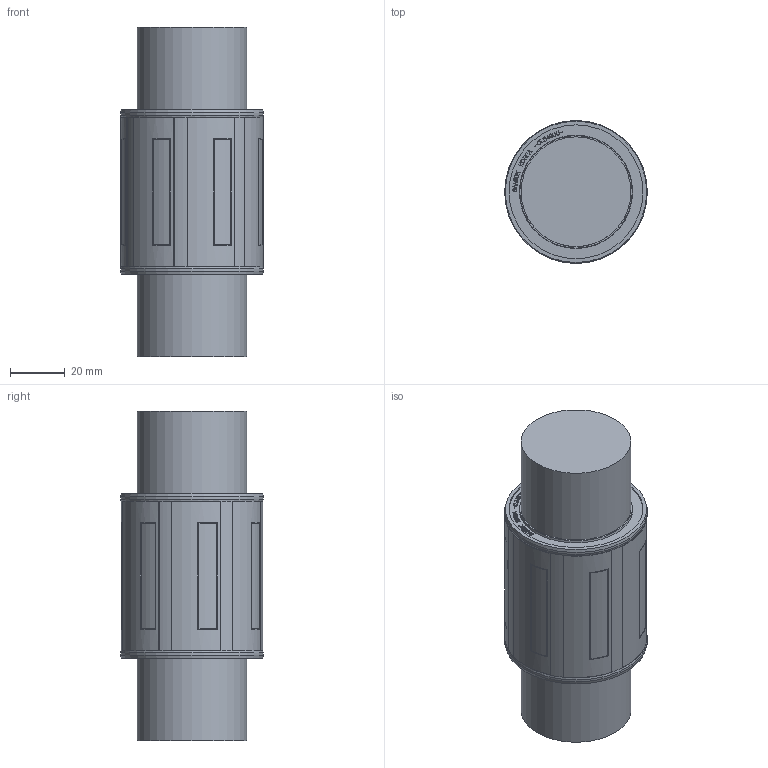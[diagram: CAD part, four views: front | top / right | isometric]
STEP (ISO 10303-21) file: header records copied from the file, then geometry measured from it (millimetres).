
FILE_DESCRIPTION(/* description */ (''),/* implementation_level */ '2;1');
FILE_NAME(/* name */ 'C:\Users\조경제\OneDrive - mysamick.com\바탕 화면\STP\STP_rev1\CLB40UU.stp',/* time_stamp */ '2025-02-05T13:42:28+09:00',/* author */ ('조경제'),/* organization */ (''),/* preprocessor_version */ 'ST-DEVELOPER v17',/* originating_system */ 'Autodesk Inventor 2019',/* authorisation */ '');
FILE_SCHEMA (('AUTOMOTIVE_DESIGN { 1 0 10303 214 3 1 1 }'));
Length unit declared in the file: millimetre
Products named in the file (1): CLB40UU
Bounding box: 52 x 52 x 120 mm (x, y, z)
Volume: 200836.6 mm3; surface area: 22488.4 mm2
Topology: 1 solids, 1 shells, 1113 faces, 3032 edges, 2006 vertices
Faces by surface type: bspline 688, plane 344, cylinder 57, torus 16, cone 8
Full cylindrical faces by diameter (mm): 40 x2, 49 x2, 49.1 x2, 52 x2
Entity records: 38800 total; most frequent: CARTESIAN_POINT 14054, ORIENTED_EDGE 6064, EDGE_CURVE 3032, DIRECTION 2738, VERTEX_POINT 2006, LINE 1454, VECTOR 1454, B_SPLINE_CURVE_WITH_KNOTS 1362
